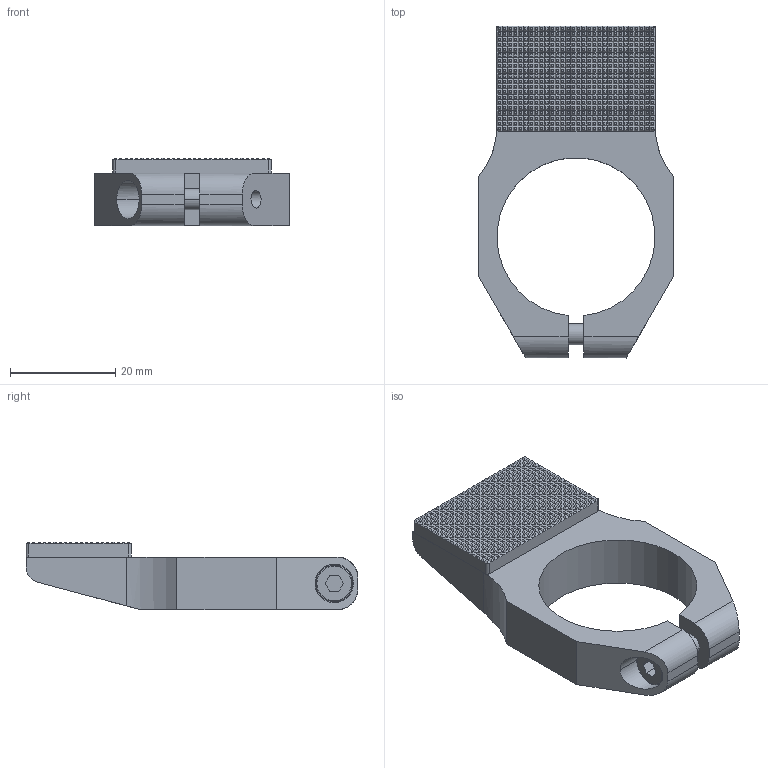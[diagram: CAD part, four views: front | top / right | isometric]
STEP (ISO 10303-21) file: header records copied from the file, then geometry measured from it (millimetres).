
FILE_DESCRIPTION (( 'STEP AP214' ), '1' );
FILE_NAME ('GP3-30.STEP', '2019-11-13T03:29:09', ( '微软用户' ), ( '微软中国' ), 'SwSTEP 2.0', 'SolidWorks 2016', '' );
FILE_SCHEMA (( 'AUTOMOTIVE_DESIGN' ));
Length unit declared in the file: millimetre
Products named in the file (1): GP3-30
Bounding box: 37 x 63 x 12.8 mm (x, y, z)
Volume: 10951.4 mm3; surface area: 7718.7 mm2
Topology: 2 solids, 2 shells, 3297 faces, 6889 edges, 3607 vertices
Faces by surface type: plane 3123, cylinder 136, bspline 28, torus 10
Entity records: 119451 total; most frequent: CARTESIAN_POINT 15318, ORIENTED_EDGE 13778, DIRECTION 13565, EDGE_CURVE 6889, LINE 6413, VECTOR 6413, VERTEX_POINT 3607, AXIS2_PLACEMENT_3D 3576
